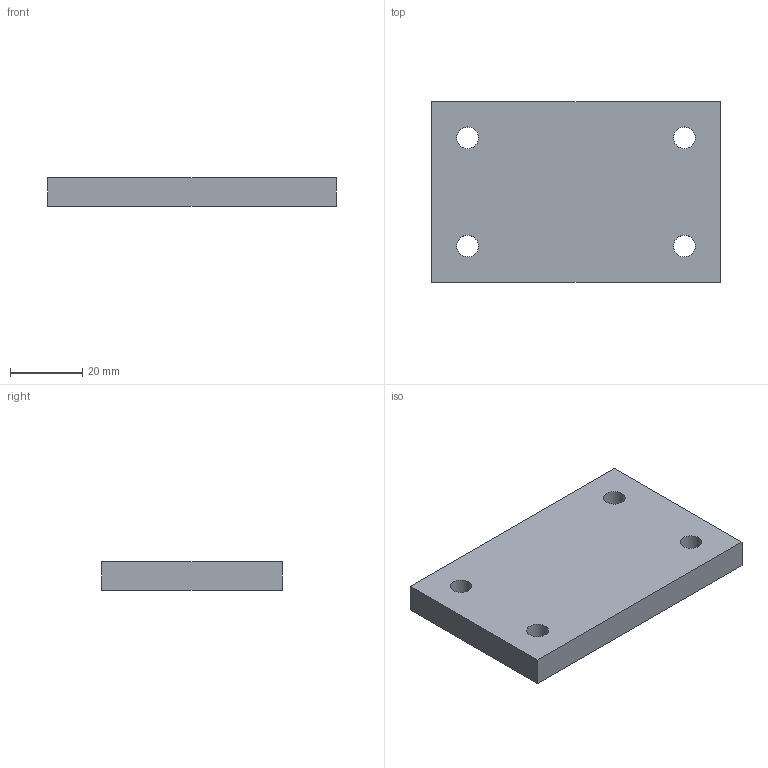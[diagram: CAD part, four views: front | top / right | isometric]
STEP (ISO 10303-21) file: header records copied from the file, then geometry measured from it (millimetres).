
FILE_DESCRIPTION(('Open CASCADE Model'),'2;1');
FILE_NAME('Open CASCADE Shape Model','2026-09-02T22:40:03',('Author'),( 'Open CASCADE'),'Open CASCADE STEP processor 7.8','Open CASCADE 7.8' ,'Unknown');
FILE_SCHEMA(('AUTOMOTIVE_DESIGN { 1 0 10303 214 1 1 1 1 }'));
Length unit declared in the file: millimetre
Products named in the file (1): Open CASCADE STEP translator 7.8 2
Bounding box: 80 x 50 x 8 mm (x, y, z)
Volume: 31095.2 mm3; surface area: 10457 mm2
Topology: 1 solids, 1 shells, 10 faces, 24 edges, 16 vertices
Faces by surface type: plane 6, cylinder 4
Full cylindrical faces by diameter (mm): 6 x4
Entity records: 634 total; most frequent: DIRECTION 102, CARTESIAN_POINT 99, LINE 56, VECTOR 56, ORIENTED_EDGE 48, PCURVE 48, DEFINITIONAL_REPRESENTATION 48, EDGE_CURVE 24
